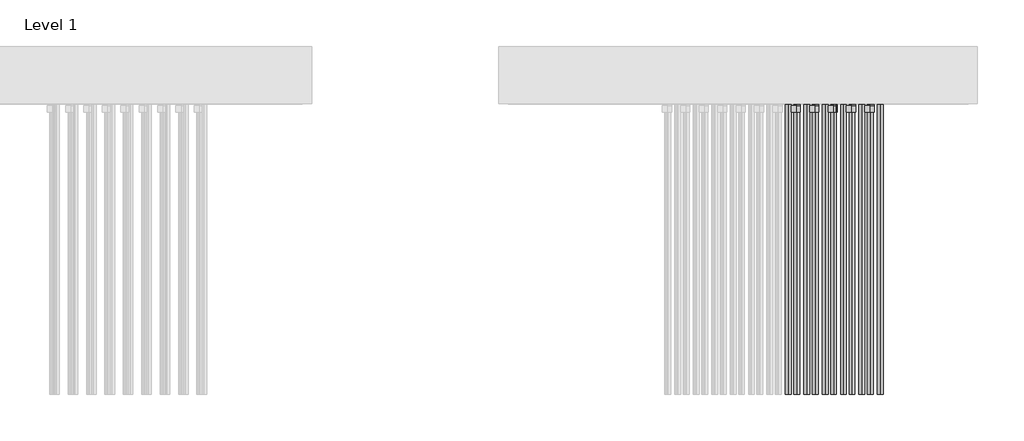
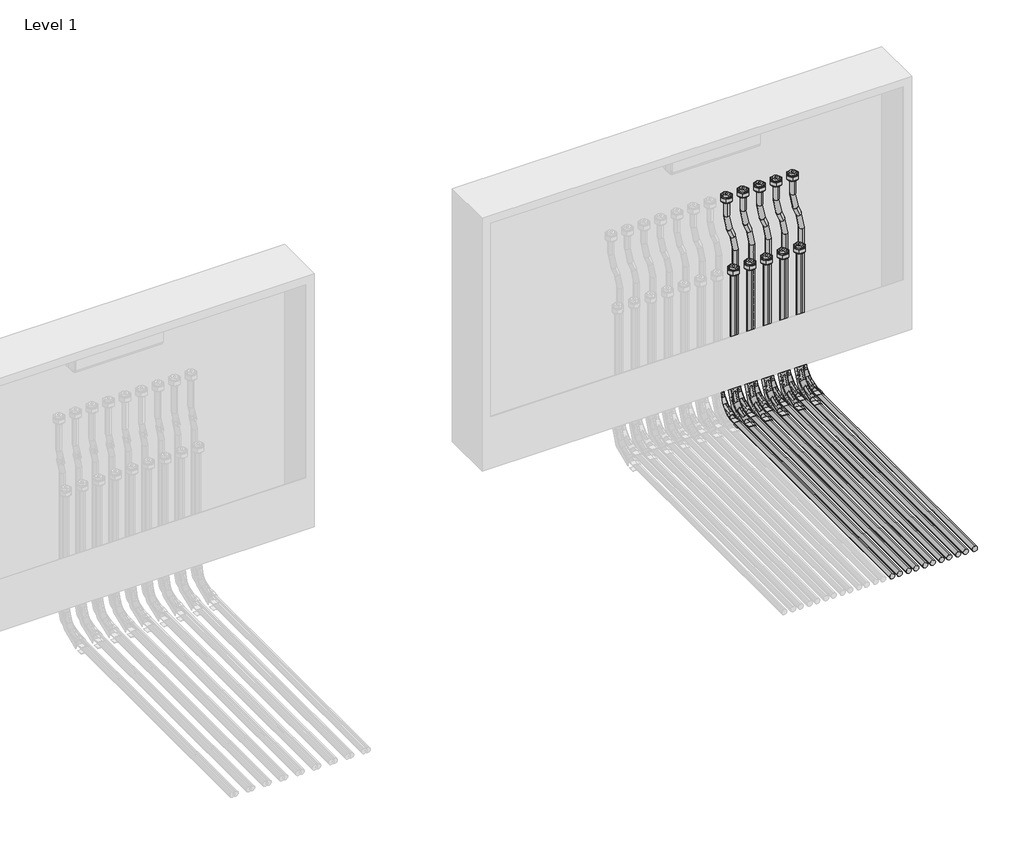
# One storey, part 15 of 15: 42 pipe fittings, 31 pipe segments.
"""IFC4 building model written with IfcOpenShell, lengths in millimetres."""

from ifc_helpers import new_model, si_unit, point, frame, frame_2d, origin, place, context, project, spatial, circle_curve, trimmed, segment, composite_curve, outline, extrude, transform, mapped, element, save
from components import pipe_fitting_b05a7e06, pipe_fitting_27357a6d, pipe_fitting_daada113, pipe_fitting_3e503640

model = new_model("IFC4")

# Units and contexts
model_context = context("Model", 3, world=origin())
ifc_project = project(units=[si_unit("LENGTHUNIT", "METRE", prefix="MILLI")], contexts=[model_context])

# Site, building, storey
site = spatial("IfcSite", under=ifc_project)
building = spatial("IfcBuilding", under=site)
storey = spatial("IfcBuildingStorey", under=building, Name="Level 1", Elevation=0.0)

# Pipe fittings
placement = place(None, origin())
pipe_fitting_shape = pipe_fitting_b05a7e06(model_context)
element("IfcPipeFitting", 1, ObjectType="USYSTEMS_УгловойФиксатор_Multi : Угловой фиксатор", at=placement, inside=storey, context=model_context, shape_type="MappedRepresentation", body=[
    mapped(pipe_fitting_shape, transform((17002.5432596, 3855.7846392, -114.3211479), x_axis=(0.0, 0.0, -1.0), y_axis=(0.0, -1.0, 0.0), z_axis=(-1.0, 0.0, 0.0))),
])
element("IfcPipeFitting", 2, ObjectType="USYSTEMS_УгловойФиксатор_Multi : Угловой фиксатор", at=placement, inside=storey, context=model_context, shape_type="MappedRepresentation", body=[
    mapped(pipe_fitting_shape, transform((17025.5332377, 3819.7850993, -114.3211479), x_axis=(0.0, 0.0, -1.0), y_axis=(0.0, -1.0, 0.0), z_axis=(-1.0, 0.0, 0.0))),
])
element("IfcPipeFitting", 3, ObjectType="USYSTEMS_УгловойФиксатор_Multi : Угловой фиксатор", at=placement, inside=storey, context=model_context, shape_type="MappedRepresentation", body=[
    mapped(pipe_fitting_shape, transform((17052.5432596, 3855.7846392, -114.3211479), x_axis=(0.0, 0.0, -1.0), y_axis=(0.0, -1.0, 0.0), z_axis=(-1.0, 0.0, 0.0))),
])
element("IfcPipeFitting", 4, ObjectType="USYSTEMS_УгловойФиксатор_Multi : Угловой фиксатор", at=placement, inside=storey, context=model_context, shape_type="MappedRepresentation", body=[
    mapped(pipe_fitting_shape, transform((17075.5332377, 3819.7850993, -114.3211479), x_axis=(0.0, 0.0, -1.0), y_axis=(0.0, -1.0, 0.0), z_axis=(-1.0, 0.0, 0.0))),
])
element("IfcPipeFitting", 5, ObjectType="USYSTEMS_УгловойФиксатор_Multi : Угловой фиксатор", at=placement, inside=storey, context=model_context, shape_type="MappedRepresentation", body=[
    mapped(pipe_fitting_shape, transform((17102.5432596, 3855.7846392, -114.3211479), x_axis=(0.0, 0.0, -1.0), y_axis=(0.0, -1.0, 0.0), z_axis=(-1.0, 0.0, 0.0))),
])
element("IfcPipeFitting", 6, ObjectType="USYSTEMS_УгловойФиксатор_Multi : Угловой фиксатор", at=placement, inside=storey, context=model_context, shape_type="MappedRepresentation", body=[
    mapped(pipe_fitting_shape, transform((17125.5332377, 3819.7850993, -114.3211479), x_axis=(0.0, 0.0, -1.0), y_axis=(0.0, -1.0, 0.0), z_axis=(-1.0, 0.0, 0.0))),
])
element("IfcPipeFitting", 7, ObjectType="USYSTEMS_УгловойФиксатор_Multi : Угловой фиксатор", at=placement, inside=storey, context=model_context, shape_type="MappedRepresentation", body=[
    mapped(pipe_fitting_shape, transform((17152.5432596, 3855.7849613, -114.3211479), x_axis=(0.0, 0.0, -1.0), y_axis=(0.0, -1.0, 0.0), z_axis=(-1.0, 0.0, 0.0))),
])
element("IfcPipeFitting", 8, ObjectType="USYSTEMS_УгловойФиксатор_Multi : Угловой фиксатор", at=placement, inside=storey, context=model_context, shape_type="MappedRepresentation", body=[
    mapped(pipe_fitting_shape, transform((17175.5332377, 3819.7850993, -114.3211479), x_axis=(0.0, 0.0, -1.0), y_axis=(0.0, -1.0, 0.0), z_axis=(-1.0, 0.0, 0.0))),
])
element("IfcPipeFitting", 9, ObjectType="USYSTEMS_УгловойФиксатор_Multi : Угловой фиксатор", at=placement, inside=storey, context=model_context, shape_type="MappedRepresentation", body=[
    mapped(pipe_fitting_shape, transform((17202.5432596, 3855.7849613, -114.3211479), x_axis=(0.0, 0.0, -1.0), y_axis=(0.0, -1.0, 0.0), z_axis=(-1.0, 0.0, 0.0))),
])
element("IfcPipeFitting", 10, ObjectType="USYSTEMS_УгловойФиксатор_Multi : Угловой фиксатор", at=placement, inside=storey, context=model_context, shape_type="MappedRepresentation", body=[
    mapped(pipe_fitting_shape, transform((17225.5332377, 3819.7850993, -114.3211479), x_axis=(0.0, 0.0, -1.0), y_axis=(0.0, -1.0, 0.0), z_axis=(-1.0, 0.0, 0.0))),
])
element("IfcPipeFitting", 11, ObjectType="USYSTEMS_УгловойФиксатор_Multi : Угловой фиксатор", at=placement, inside=storey, context=model_context, shape_type="MappedRepresentation", body=[
    mapped(pipe_fitting_shape, transform((17252.5432596, 3855.7849613, -114.3211479), x_axis=(0.0, 0.0, -1.0), y_axis=(0.0, -1.0, 0.0), z_axis=(-1.0, 0.0, 0.0))),
])
pipe_fitting_2_shape = pipe_fitting_27357a6d(model_context)
element("IfcPipeFitting", 12, ObjectType="USYSTEMS_Штуцер с внутренней резьбой_FlexX_PEX : 16x2,0 x 3/4\" ВР Евроконус", at=placement, inside=storey, context=model_context, shape_type="MappedRepresentation", body=[
    mapped(pipe_fitting_2_shape, transform((17025.5332377, 3819.7850993, 328.3084133), x_axis=(0.0, 0.0, 1.0), y_axis=(0.0, 1.0, 0.0), z_axis=(-1.0, 0.0, 0.0))),
])
element("IfcPipeFitting", 13, ObjectType="USYSTEMS_Штуцер с внутренней резьбой_FlexX_PEX : 16x2,0 x 3/4\" ВР Евроконус", at=placement, inside=storey, context=model_context, shape_type="MappedRepresentation", body=[
    mapped(pipe_fitting_2_shape, transform((17025.5332377, 3855.7850993, 538.3084133), x_axis=(0.0, 0.0, 1.0), y_axis=(0.0, 1.0, 0.0), z_axis=(-1.0, 0.0, 0.0))),
])
element("IfcPipeFitting", 14, ObjectType="USYSTEMS_Штуцер с внутренней резьбой_FlexX_PEX : 16x2,0 x 3/4\" ВР Евроконус", at=placement, inside=storey, context=model_context, shape_type="MappedRepresentation", body=[
    mapped(pipe_fitting_2_shape, transform((17075.5332377, 3819.7850993, 328.3084133), x_axis=(0.0, 0.0, 1.0), y_axis=(0.0, 1.0, 0.0), z_axis=(-1.0, 0.0, 0.0))),
])
element("IfcPipeFitting", 15, ObjectType="USYSTEMS_Штуцер с внутренней резьбой_FlexX_PEX : 16x2,0 x 3/4\" ВР Евроконус", at=placement, inside=storey, context=model_context, shape_type="MappedRepresentation", body=[
    mapped(pipe_fitting_2_shape, transform((17075.5332377, 3855.7850993, 538.3084133), x_axis=(0.0, 0.0, 1.0), y_axis=(0.0, 1.0, 0.0), z_axis=(-1.0, 0.0, 0.0))),
])
element("IfcPipeFitting", 16, ObjectType="USYSTEMS_Штуцер с внутренней резьбой_FlexX_PEX : 16x2,0 x 3/4\" ВР Евроконус", at=placement, inside=storey, context=model_context, shape_type="MappedRepresentation", body=[
    mapped(pipe_fitting_2_shape, transform((17125.5332377, 3819.7850993, 328.3084133), x_axis=(0.0, 0.0, 1.0), y_axis=(0.0, 1.0, 0.0), z_axis=(-1.0, 0.0, 0.0))),
])
element("IfcPipeFitting", 17, ObjectType="USYSTEMS_Штуцер с внутренней резьбой_FlexX_PEX : 16x2,0 x 3/4\" ВР Евроконус", at=placement, inside=storey, context=model_context, shape_type="MappedRepresentation", body=[
    mapped(pipe_fitting_2_shape, transform((17125.5332377, 3855.7850993, 538.3084133), x_axis=(0.0, 0.0, 1.0), y_axis=(0.0, 1.0, 0.0), z_axis=(-1.0, 0.0, 0.0))),
])
element("IfcPipeFitting", 18, ObjectType="USYSTEMS_Штуцер с внутренней резьбой_FlexX_PEX : 16x2,0 x 3/4\" ВР Евроконус", at=placement, inside=storey, context=model_context, shape_type="MappedRepresentation", body=[
    mapped(pipe_fitting_2_shape, transform((17175.5332377, 3819.7850993, 328.3084133), x_axis=(0.0, 0.0, 1.0), y_axis=(0.0, 1.0, 0.0), z_axis=(-1.0, 0.0, 0.0))),
])
element("IfcPipeFitting", 19, ObjectType="USYSTEMS_Штуцер с внутренней резьбой_FlexX_PEX : 16x2,0 x 3/4\" ВР Евроконус", at=placement, inside=storey, context=model_context, shape_type="MappedRepresentation", body=[
    mapped(pipe_fitting_2_shape, transform((17175.5332377, 3855.7850993, 538.3084133), x_axis=(0.0, 0.0, 1.0), y_axis=(0.0, 1.0, 0.0), z_axis=(-1.0, 0.0, 0.0))),
])
element("IfcPipeFitting", 20, ObjectType="USYSTEMS_Штуцер с внутренней резьбой_FlexX_PEX : 16x2,0 x 3/4\" ВР Евроконус", at=placement, inside=storey, context=model_context, shape_type="MappedRepresentation", body=[
    mapped(pipe_fitting_2_shape, transform((17225.5332377, 3819.7850993, 328.3084133), x_axis=(0.0, 0.0, 1.0), y_axis=(0.0, 1.0, 0.0), z_axis=(-1.0, 0.0, 0.0))),
])
element("IfcPipeFitting", 21, ObjectType="USYSTEMS_Штуцер с внутренней резьбой_FlexX_PEX : 16x2,0 x 3/4\" ВР Евроконус", at=placement, inside=storey, context=model_context, shape_type="MappedRepresentation", body=[
    mapped(pipe_fitting_2_shape, transform((17225.5332377, 3855.7850993, 538.3084133), x_axis=(0.0, 0.0, 1.0), y_axis=(0.0, 1.0, 0.0), z_axis=(-1.0, 0.0, 0.0))),
])
pipe_fitting_3_shape = pipe_fitting_daada113(model_context)
element("IfcPipeFitting", 22, ObjectType="USYSTEMS_Гнутая труба_Radi Pipe : PN 6 в бухтах", at=placement, inside=storey, context=model_context, shape_type="MappedRepresentation", body=[
    mapped(pipe_fitting_3_shape, transform((17025.5332377, 3855.7850993, 458.6280399), x_axis=(0.0, 0.0, -1.0), y_axis=(1.0, 0.0, 0.0), z_axis=(0.0, -1.0, 0.0))),
])
element("IfcPipeFitting", 23, ObjectType="USYSTEMS_Гнутая труба_Radi Pipe : PN 6 в бухтах", at=placement, inside=storey, context=model_context, shape_type="MappedRepresentation", body=[
    mapped(pipe_fitting_3_shape, transform((17052.5432596, 3855.7846392, 388.2645272), x_axis=(0.3583679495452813, 0.0, -0.9335804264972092), y_axis=(-0.9335804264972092, 0.0, -0.3583679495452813), z_axis=(0.0, 1.0, 0.0))),
])
element("IfcPipeFitting", 24, ObjectType="USYSTEMS_Гнутая труба_Radi Pipe : PN 6 в бухтах", at=placement, inside=storey, context=model_context, shape_type="MappedRepresentation", body=[
    mapped(pipe_fitting_3_shape, transform((17075.5332377, 3855.7850993, 458.6280399), x_axis=(0.0, 0.0, -1.0), y_axis=(1.0, 0.0, 0.0), z_axis=(0.0, -1.0, 0.0))),
])
element("IfcPipeFitting", 25, ObjectType="USYSTEMS_Гнутая труба_Radi Pipe : PN 6 в бухтах", at=placement, inside=storey, context=model_context, shape_type="MappedRepresentation", body=[
    mapped(pipe_fitting_3_shape, transform((17102.5432596, 3855.7846392, 388.2645272), x_axis=(0.3583679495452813, 0.0, -0.9335804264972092), y_axis=(-0.9335804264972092, 0.0, -0.3583679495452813), z_axis=(0.0, 1.0, 0.0))),
])
element("IfcPipeFitting", 26, ObjectType="USYSTEMS_Гнутая труба_Radi Pipe : PN 6 в бухтах", at=placement, inside=storey, context=model_context, shape_type="MappedRepresentation", body=[
    mapped(pipe_fitting_3_shape, transform((17125.5332377, 3855.7850993, 458.6280399), x_axis=(0.0, 0.0, -1.0), y_axis=(1.0, 0.0, 0.0), z_axis=(0.0, -1.0, 0.0))),
])
element("IfcPipeFitting", 27, ObjectType="USYSTEMS_Гнутая труба_Radi Pipe : PN 6 в бухтах", at=placement, inside=storey, context=model_context, shape_type="MappedRepresentation", body=[
    mapped(pipe_fitting_3_shape, transform((17152.5432596, 3855.7849613, 388.2645272), x_axis=(0.3583679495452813, 0.0, -0.9335804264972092), y_axis=(-0.9335804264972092, 0.0, -0.3583679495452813), z_axis=(0.0, 1.0, 0.0))),
])
element("IfcPipeFitting", 28, ObjectType="USYSTEMS_Гнутая труба_Radi Pipe : PN 6 в бухтах", at=placement, inside=storey, context=model_context, shape_type="MappedRepresentation", body=[
    mapped(pipe_fitting_3_shape, transform((17175.5332377, 3855.7850993, 458.6280399), x_axis=(0.0, 0.0, -1.0), y_axis=(1.0, 0.0, 0.0), z_axis=(0.0, -1.0, 0.0))),
])
element("IfcPipeFitting", 29, ObjectType="USYSTEMS_Гнутая труба_Radi Pipe : PN 6 в бухтах", at=placement, inside=storey, context=model_context, shape_type="MappedRepresentation", body=[
    mapped(pipe_fitting_3_shape, transform((17202.5432596, 3855.7849613, 388.2645272), x_axis=(0.3583679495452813, 0.0, -0.9335804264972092), y_axis=(-0.9335804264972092, 0.0, -0.3583679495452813), z_axis=(0.0, 1.0, 0.0))),
])
element("IfcPipeFitting", 30, ObjectType="USYSTEMS_Гнутая труба_Radi Pipe : PN 6 в бухтах", at=placement, inside=storey, context=model_context, shape_type="MappedRepresentation", body=[
    mapped(pipe_fitting_3_shape, transform((17225.5332377, 3855.7850993, 458.6280399), x_axis=(0.0, 0.0, -1.0), y_axis=(1.0, 0.0, 0.0), z_axis=(0.0, -1.0, 0.0))),
])
element("IfcPipeFitting", 31, ObjectType="USYSTEMS_Гнутая труба_Radi Pipe : PN 6 в бухтах", at=placement, inside=storey, context=model_context, shape_type="MappedRepresentation", body=[
    mapped(pipe_fitting_3_shape, transform((17252.5432596, 3855.7849613, 388.2645272), x_axis=(0.3583679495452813, 0.0, -0.9335804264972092), y_axis=(-0.9335804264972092, 0.0, -0.3583679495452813), z_axis=(0.0, 1.0, 0.0))),
])
pipe_fitting_4_shape = pipe_fitting_3e503640(model_context)
element("IfcPipeFitting", 32, ObjectType="USYSTEMS_Гнутая труба_Radi Pipe : PN 6 в бухтах_С фиксатором", at=placement, inside=storey, context=model_context, shape_type="MappedRepresentation", body=[
    mapped(pipe_fitting_4_shape, transform((17002.5432596, 3855.7846392, -114.3211479), x_axis=(0.0, 0.0, -1.0), y_axis=(0.0, -1.0, 0.0), z_axis=(-1.0, 0.0, 0.0))),
])
element("IfcPipeFitting", 33, ObjectType="USYSTEMS_Гнутая труба_Radi Pipe : PN 6 в бухтах_С фиксатором", at=placement, inside=storey, context=model_context, shape_type="MappedRepresentation", body=[
    mapped(pipe_fitting_4_shape, transform((17025.5332377, 3819.7850993, -114.3211479), x_axis=(0.0, 0.0, -1.0), y_axis=(0.0, -1.0, 0.0), z_axis=(-1.0, 0.0, 0.0))),
])
element("IfcPipeFitting", 34, ObjectType="USYSTEMS_Гнутая труба_Radi Pipe : PN 6 в бухтах_С фиксатором", at=placement, inside=storey, context=model_context, shape_type="MappedRepresentation", body=[
    mapped(pipe_fitting_4_shape, transform((17052.5432596, 3855.7846392, -114.3211479), x_axis=(0.0, 0.0, -1.0), y_axis=(0.0, -1.0, 0.0), z_axis=(-1.0, 0.0, 0.0))),
])
element("IfcPipeFitting", 35, ObjectType="USYSTEMS_Гнутая труба_Radi Pipe : PN 6 в бухтах_С фиксатором", at=placement, inside=storey, context=model_context, shape_type="MappedRepresentation", body=[
    mapped(pipe_fitting_4_shape, transform((17075.5332377, 3819.7850993, -114.3211479), x_axis=(0.0, 0.0, -1.0), y_axis=(0.0, -1.0, 0.0), z_axis=(-1.0, 0.0, 0.0))),
])
element("IfcPipeFitting", 36, ObjectType="USYSTEMS_Гнутая труба_Radi Pipe : PN 6 в бухтах_С фиксатором", at=placement, inside=storey, context=model_context, shape_type="MappedRepresentation", body=[
    mapped(pipe_fitting_4_shape, transform((17102.5432596, 3855.7846392, -114.3211479), x_axis=(0.0, 0.0, -1.0), y_axis=(0.0, -1.0, 0.0), z_axis=(-1.0, 0.0, 0.0))),
])
element("IfcPipeFitting", 37, ObjectType="USYSTEMS_Гнутая труба_Radi Pipe : PN 6 в бухтах_С фиксатором", at=placement, inside=storey, context=model_context, shape_type="MappedRepresentation", body=[
    mapped(pipe_fitting_4_shape, transform((17125.5332377, 3819.7850993, -114.3211479), x_axis=(0.0, 0.0, -1.0), y_axis=(0.0, -1.0, 0.0), z_axis=(-1.0, 0.0, 0.0))),
])
element("IfcPipeFitting", 38, ObjectType="USYSTEMS_Гнутая труба_Radi Pipe : PN 6 в бухтах_С фиксатором", at=placement, inside=storey, context=model_context, shape_type="MappedRepresentation", body=[
    mapped(pipe_fitting_4_shape, transform((17152.5432596, 3855.7849613, -114.3211479), x_axis=(0.0, 0.0, -1.0), y_axis=(0.0, -1.0, 0.0), z_axis=(-1.0, 0.0, 0.0))),
])
element("IfcPipeFitting", 39, ObjectType="USYSTEMS_Гнутая труба_Radi Pipe : PN 6 в бухтах_С фиксатором", at=placement, inside=storey, context=model_context, shape_type="MappedRepresentation", body=[
    mapped(pipe_fitting_4_shape, transform((17175.5332377, 3819.7850993, -114.3211479), x_axis=(0.0, 0.0, -1.0), y_axis=(0.0, -1.0, 0.0), z_axis=(-1.0, 0.0, 0.0))),
])
element("IfcPipeFitting", 40, ObjectType="USYSTEMS_Гнутая труба_Radi Pipe : PN 6 в бухтах_С фиксатором", at=placement, inside=storey, context=model_context, shape_type="MappedRepresentation", body=[
    mapped(pipe_fitting_4_shape, transform((17202.5432596, 3855.7849613, -114.3211479), x_axis=(0.0, 0.0, -1.0), y_axis=(0.0, -1.0, 0.0), z_axis=(-1.0, 0.0, 0.0))),
])
element("IfcPipeFitting", 41, ObjectType="USYSTEMS_Гнутая труба_Radi Pipe : PN 6 в бухтах_С фиксатором", at=placement, inside=storey, context=model_context, shape_type="MappedRepresentation", body=[
    mapped(pipe_fitting_4_shape, transform((17225.5332377, 3819.7850993, -114.3211479), x_axis=(0.0, 0.0, -1.0), y_axis=(0.0, -1.0, 0.0), z_axis=(-1.0, 0.0, 0.0))),
])
element("IfcPipeFitting", 42, ObjectType="USYSTEMS_Гнутая труба_Radi Pipe : PN 6 в бухтах_С фиксатором", at=placement, inside=storey, context=model_context, shape_type="MappedRepresentation", body=[
    mapped(pipe_fitting_4_shape, transform((17252.5432596, 3855.7849613, -114.3211479), x_axis=(0.0, 0.0, -1.0), y_axis=(0.0, -1.0, 0.0), z_axis=(-1.0, 0.0, 0.0))),
])

# Pipe segments
element("IfcPipeSegment", 43, ObjectType="USYSTEMS труба Radi Pipe белая PN6", at=placement, inside=storey, context=model_context, shape_type="SweptSolid", body=[
    extrude(outline(composite_curve([segment(trimmed(circle_curve(frame_2d((-114.3211479, 17002.5432596)), 8.0), [point((-114.3211479, 16994.5432596))], [point((-122.3211479, 17002.5432596))], False, "CARTESIAN"), True, "CONTINUOUS"), segment(trimmed(circle_curve(frame_2d((-114.3211479, 17002.5432596)), 8.0), [point((-122.3211479, 17002.5432596))], [point((-114.3211479, 17010.5432596))], False, "CARTESIAN"), True, "CONTINUOUS"), segment(trimmed(circle_curve(frame_2d((-114.3211479, 17002.5432596)), 8.0), [point((-114.3211479, 17010.5432596))], [point((-106.3211479, 17002.5432596))], False, "CARTESIAN"), True, "CONTINUOUS"), segment(trimmed(circle_curve(frame_2d((-114.3211479, 17002.5432596)), 8.0), [point((-106.3211479, 17002.5432596))], [point((-114.3211479, 16994.5432596))], False, "CARTESIAN"), True, "CONTINUOUS")], self_intersect=False)), frame((0.0, 2946.5844543, 0.0), z_axis=(0.0, 1.0, 0.0), x_axis=(0.0, 0.0, 1.0)), (0.0, 0.0, 1.0), 838.2001849),
])
element("IfcPipeSegment", 44, ObjectType="USYSTEMS труба Radi Pipe белая PN6", at=placement, inside=storey, context=model_context, shape_type="SweptSolid", body=[
    extrude(outline(composite_curve([segment(trimmed(circle_curve(frame_2d((17025.5332377, 3819.7850993)), 8.0), [point((17033.5332377, 3819.7850993))], [point((17025.5332377, 3811.7850993))], False, "CARTESIAN"), True, "CONTINUOUS"), segment(trimmed(circle_curve(frame_2d((17025.5332377, 3819.7850993)), 8.0), [point((17025.5332377, 3811.7850993))], [point((17017.5332377, 3819.7850993))], False, "CARTESIAN"), True, "CONTINUOUS"), segment(trimmed(circle_curve(frame_2d((17025.5332377, 3819.7850993)), 8.0), [point((17017.5332377, 3819.7850993))], [point((17025.5332377, 3827.7850993))], False, "CARTESIAN"), True, "CONTINUOUS"), segment(trimmed(circle_curve(frame_2d((17025.5332377, 3819.7850993)), 8.0), [point((17025.5332377, 3827.7850993))], [point((17033.5332377, 3819.7850993))], False, "CARTESIAN"), True, "CONTINUOUS")], self_intersect=False)), frame((0.0, 0.0, -43.3211479), z_axis=(0.0, 0.0, 1.0), x_axis=(1.0, 0.0, 0.0)), (0.0, 0.0, 1.0), 370.6295612),
])
element("IfcPipeSegment", 45, ObjectType="USYSTEMS труба Radi Pipe белая PN6", at=placement, inside=storey, context=model_context, shape_type="SweptSolid", body=[
    extrude(outline(composite_curve([segment(trimmed(circle_curve(frame_2d((17025.5332377, 3855.7850993)), 8.0), [point((17033.5332377, 3855.7850993))], [point((17025.5332377, 3847.7850993))], False, "CARTESIAN"), True, "CONTINUOUS"), segment(trimmed(circle_curve(frame_2d((17025.5332377, 3855.7850993)), 8.0), [point((17025.5332377, 3847.7850993))], [point((17017.5332377, 3855.7850993))], False, "CARTESIAN"), True, "CONTINUOUS"), segment(trimmed(circle_curve(frame_2d((17025.5332377, 3855.7850993)), 8.0), [point((17017.5332377, 3855.7850993))], [point((17025.5332377, 3863.7850993))], False, "CARTESIAN"), True, "CONTINUOUS"), segment(trimmed(circle_curve(frame_2d((17025.5332377, 3855.7850993)), 8.0), [point((17025.5332377, 3863.7850993))], [point((17033.5332377, 3855.7850993))], False, "CARTESIAN"), True, "CONTINUOUS")], self_intersect=False)), frame((0.0, 0.0, 482.3514377), z_axis=(0.0, 0.0, 1.0), x_axis=(1.0, 0.0, 0.0)), (0.0, 0.0, 1.0), 54.9569756),
])
element("IfcPipeSegment", 46, ObjectType="USYSTEMS труба Radi Pipe белая PN6", at=placement, inside=storey, context=model_context, shape_type="SweptSolid", body=[
    extrude(outline(composite_curve([segment(trimmed(circle_curve(frame_2d((0.0, -8.0)), 8.0), [point((-0.0003941, -16.0))], [point((-8.0, -7.999606))], False, "CARTESIAN"), True, "CONTINUOUS"), segment(trimmed(circle_curve(frame_2d((0.0, -8.0)), 8.0), [point((-8.0, -7.999606))], [point((0.0003941, 0.0))], False, "CARTESIAN"), True, "CONTINUOUS"), segment(trimmed(circle_curve(frame_2d((0.0, -8.0)), 8.0), [point((0.0003941, 0.0))], [point((8.0, -8.0003941))], False, "CARTESIAN"), True, "CONTINUOUS"), segment(trimmed(circle_curve(frame_2d((0.0, -8.0)), 8.0), [point((8.0, -8.0003941))], [point((-0.0003941, -16.0))], False, "CARTESIAN"), True, "CONTINUOUS")], self_intersect=False)), frame((17044.0415542, 3863.7846392, 410.4120858), z_axis=(-0.35836794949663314, 1.6478935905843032e-05, 0.9335804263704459), x_axis=(0.9335804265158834, 6.325670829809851e-06, 0.35836794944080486)), (0.0, 0.0, 1.0), 27.9227289),
])
element("IfcPipeSegment", 47, ObjectType="USYSTEMS труба Radi Pipe белая PN6", at=placement, inside=storey, context=model_context, shape_type="SweptSolid", body=[
    extrude(outline(composite_curve([segment(trimmed(circle_curve(frame_2d((17052.5432596, 3855.7846392)), 8.0), [point((17060.5432596, 3855.7846392))], [point((17052.5432596, 3847.7846392))], False, "CARTESIAN"), True, "CONTINUOUS"), segment(trimmed(circle_curve(frame_2d((17052.5432596, 3855.7846392)), 8.0), [point((17052.5432596, 3847.7846392))], [point((17044.5432596, 3855.7846392))], False, "CARTESIAN"), True, "CONTINUOUS"), segment(trimmed(circle_curve(frame_2d((17052.5432596, 3855.7846392)), 8.0), [point((17044.5432596, 3855.7846392))], [point((17052.5432596, 3863.7846392))], False, "CARTESIAN"), True, "CONTINUOUS"), segment(trimmed(circle_curve(frame_2d((17052.5432596, 3855.7846392)), 8.0), [point((17052.5432596, 3863.7846392))], [point((17060.5432596, 3855.7846392))], False, "CARTESIAN"), True, "CONTINUOUS")], self_intersect=False)), frame((0.0, 0.0, -43.3211479), z_axis=(0.0, 0.0, 1.0), x_axis=(1.0, 0.0, 0.0)), (0.0, 0.0, 1.0), 407.8622774),
])
element("IfcPipeSegment", 48, ObjectType="USYSTEMS труба Radi Pipe белая PN6", at=placement, inside=storey, context=model_context, shape_type="SweptSolid", body=[
    extrude(outline(composite_curve([segment(trimmed(circle_curve(frame_2d((-114.3211479, 17025.5332377)), 8.0), [point((-114.3211479, 17017.5332377))], [point((-122.3211479, 17025.5332377))], False, "CARTESIAN"), True, "CONTINUOUS"), segment(trimmed(circle_curve(frame_2d((-114.3211479, 17025.5332377)), 8.0), [point((-122.3211479, 17025.5332377))], [point((-114.3211479, 17033.5332377))], False, "CARTESIAN"), True, "CONTINUOUS"), segment(trimmed(circle_curve(frame_2d((-114.3211479, 17025.5332377)), 8.0), [point((-114.3211479, 17033.5332377))], [point((-106.3211479, 17025.5332377))], False, "CARTESIAN"), True, "CONTINUOUS"), segment(trimmed(circle_curve(frame_2d((-114.3211479, 17025.5332377)), 8.0), [point((-106.3211479, 17025.5332377))], [point((-114.3211479, 17017.5332377))], False, "CARTESIAN"), True, "CONTINUOUS")], self_intersect=False)), frame((0.0, 2946.5844543, 0.0), z_axis=(0.0, 1.0, 0.0), x_axis=(0.0, 0.0, 1.0)), (0.0, 0.0, 1.0), 802.200645),
])
element("IfcPipeSegment", 49, ObjectType="USYSTEMS труба Radi Pipe белая PN6", at=placement, inside=storey, context=model_context, shape_type="SweptSolid", body=[
    extrude(outline(composite_curve([segment(trimmed(circle_curve(frame_2d((-114.3211479, 17052.5432596)), 8.0), [point((-114.3211479, 17044.5432596))], [point((-122.3211479, 17052.5432596))], False, "CARTESIAN"), True, "CONTINUOUS"), segment(trimmed(circle_curve(frame_2d((-114.3211479, 17052.5432596)), 8.0), [point((-122.3211479, 17052.5432596))], [point((-114.3211479, 17060.5432596))], False, "CARTESIAN"), True, "CONTINUOUS"), segment(trimmed(circle_curve(frame_2d((-114.3211479, 17052.5432596)), 8.0), [point((-114.3211479, 17060.5432596))], [point((-106.3211479, 17052.5432596))], False, "CARTESIAN"), True, "CONTINUOUS"), segment(trimmed(circle_curve(frame_2d((-114.3211479, 17052.5432596)), 8.0), [point((-106.3211479, 17052.5432596))], [point((-114.3211479, 17044.5432596))], False, "CARTESIAN"), True, "CONTINUOUS")], self_intersect=False)), frame((0.0, 2946.5844543, 0.0), z_axis=(0.0, 1.0, 0.0), x_axis=(0.0, 0.0, 1.0)), (0.0, 0.0, 1.0), 838.2001849),
])
element("IfcPipeSegment", 50, ObjectType="USYSTEMS труба Radi Pipe белая PN6", at=placement, inside=storey, context=model_context, shape_type="SweptSolid", body=[
    extrude(outline(composite_curve([segment(trimmed(circle_curve(frame_2d((17075.5332377, 3819.7850993)), 8.0), [point((17083.5332377, 3819.7850993))], [point((17075.5332377, 3811.7850993))], False, "CARTESIAN"), True, "CONTINUOUS"), segment(trimmed(circle_curve(frame_2d((17075.5332377, 3819.7850993)), 8.0), [point((17075.5332377, 3811.7850993))], [point((17067.5332377, 3819.7850993))], False, "CARTESIAN"), True, "CONTINUOUS"), segment(trimmed(circle_curve(frame_2d((17075.5332377, 3819.7850993)), 8.0), [point((17067.5332377, 3819.7850993))], [point((17075.5332377, 3827.7850993))], False, "CARTESIAN"), True, "CONTINUOUS"), segment(trimmed(circle_curve(frame_2d((17075.5332377, 3819.7850993)), 8.0), [point((17075.5332377, 3827.7850993))], [point((17083.5332377, 3819.7850993))], False, "CARTESIAN"), True, "CONTINUOUS")], self_intersect=False)), frame((0.0, 0.0, -43.3211479), z_axis=(0.0, 0.0, 1.0), x_axis=(1.0, 0.0, 0.0)), (0.0, 0.0, 1.0), 370.6295612),
])
element("IfcPipeSegment", 51, ObjectType="USYSTEMS труба Radi Pipe белая PN6", at=placement, inside=storey, context=model_context, shape_type="SweptSolid", body=[
    extrude(outline(composite_curve([segment(trimmed(circle_curve(frame_2d((17075.5332377, 3855.7850993)), 8.0), [point((17083.5332377, 3855.7850993))], [point((17075.5332377, 3847.7850993))], False, "CARTESIAN"), True, "CONTINUOUS"), segment(trimmed(circle_curve(frame_2d((17075.5332377, 3855.7850993)), 8.0), [point((17075.5332377, 3847.7850993))], [point((17067.5332377, 3855.7850993))], False, "CARTESIAN"), True, "CONTINUOUS"), segment(trimmed(circle_curve(frame_2d((17075.5332377, 3855.7850993)), 8.0), [point((17067.5332377, 3855.7850993))], [point((17075.5332377, 3863.7850993))], False, "CARTESIAN"), True, "CONTINUOUS"), segment(trimmed(circle_curve(frame_2d((17075.5332377, 3855.7850993)), 8.0), [point((17075.5332377, 3863.7850993))], [point((17083.5332377, 3855.7850993))], False, "CARTESIAN"), True, "CONTINUOUS")], self_intersect=False)), frame((0.0, 0.0, 482.3514377), z_axis=(0.0, 0.0, 1.0), x_axis=(1.0, 0.0, 0.0)), (0.0, 0.0, 1.0), 54.9569756),
])
element("IfcPipeSegment", 52, ObjectType="USYSTEMS труба Radi Pipe белая PN6", at=placement, inside=storey, context=model_context, shape_type="SweptSolid", body=[
    extrude(outline(composite_curve([segment(trimmed(circle_curve(frame_2d((0.0, -8.0)), 8.0), [point((-0.0003941, -16.0))], [point((-8.0, -7.999606))], False, "CARTESIAN"), True, "CONTINUOUS"), segment(trimmed(circle_curve(frame_2d((0.0, -8.0)), 8.0), [point((-8.0, -7.999606))], [point((0.0003941, 0.0))], False, "CARTESIAN"), True, "CONTINUOUS"), segment(trimmed(circle_curve(frame_2d((0.0, -8.0)), 8.0), [point((0.0003941, 0.0))], [point((8.0, -8.0003941))], False, "CARTESIAN"), True, "CONTINUOUS"), segment(trimmed(circle_curve(frame_2d((0.0, -8.0)), 8.0), [point((8.0, -8.0003941))], [point((-0.0003941, -16.0))], False, "CARTESIAN"), True, "CONTINUOUS")], self_intersect=False)), frame((17094.0415542, 3863.7846392, 410.4120858), z_axis=(-0.3583679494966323, 1.647893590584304e-05, 0.933580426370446), x_axis=(0.9335804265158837, 6.325670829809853e-06, 0.3583679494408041)), (0.0, 0.0, 1.0), 27.9227289),
])
element("IfcPipeSegment", 53, ObjectType="USYSTEMS труба Radi Pipe белая PN6", at=placement, inside=storey, context=model_context, shape_type="SweptSolid", body=[
    extrude(outline(composite_curve([segment(trimmed(circle_curve(frame_2d((17102.5432596, 3855.7846392)), 8.0), [point((17110.5432596, 3855.7846392))], [point((17102.5432596, 3847.7846392))], False, "CARTESIAN"), True, "CONTINUOUS"), segment(trimmed(circle_curve(frame_2d((17102.5432596, 3855.7846392)), 8.0), [point((17102.5432596, 3847.7846392))], [point((17094.5432596, 3855.7846392))], False, "CARTESIAN"), True, "CONTINUOUS"), segment(trimmed(circle_curve(frame_2d((17102.5432596, 3855.7846392)), 8.0), [point((17094.5432596, 3855.7846392))], [point((17102.5432596, 3863.7846392))], False, "CARTESIAN"), True, "CONTINUOUS"), segment(trimmed(circle_curve(frame_2d((17102.5432596, 3855.7846392)), 8.0), [point((17102.5432596, 3863.7846392))], [point((17110.5432596, 3855.7846392))], False, "CARTESIAN"), True, "CONTINUOUS")], self_intersect=False)), frame((0.0, 0.0, -43.3211479), z_axis=(0.0, 0.0, 1.0), x_axis=(1.0, 0.0, 0.0)), (0.0, 0.0, 1.0), 407.8622774),
])
element("IfcPipeSegment", 54, ObjectType="USYSTEMS труба Radi Pipe белая PN6", at=placement, inside=storey, context=model_context, shape_type="SweptSolid", body=[
    extrude(outline(composite_curve([segment(trimmed(circle_curve(frame_2d((-114.3211479, 17075.5332377)), 8.0), [point((-114.3211479, 17067.5332377))], [point((-122.3211479, 17075.5332377))], False, "CARTESIAN"), True, "CONTINUOUS"), segment(trimmed(circle_curve(frame_2d((-114.3211479, 17075.5332377)), 8.0), [point((-122.3211479, 17075.5332377))], [point((-114.3211479, 17083.5332377))], False, "CARTESIAN"), True, "CONTINUOUS"), segment(trimmed(circle_curve(frame_2d((-114.3211479, 17075.5332377)), 8.0), [point((-114.3211479, 17083.5332377))], [point((-106.3211479, 17075.5332377))], False, "CARTESIAN"), True, "CONTINUOUS"), segment(trimmed(circle_curve(frame_2d((-114.3211479, 17075.5332377)), 8.0), [point((-106.3211479, 17075.5332377))], [point((-114.3211479, 17067.5332377))], False, "CARTESIAN"), True, "CONTINUOUS")], self_intersect=False)), frame((0.0, 2946.5844543, 0.0), z_axis=(0.0, 1.0, 0.0), x_axis=(0.0, 0.0, 1.0)), (0.0, 0.0, 1.0), 802.200645),
])
element("IfcPipeSegment", 55, ObjectType="USYSTEMS труба Radi Pipe белая PN6", at=placement, inside=storey, context=model_context, shape_type="SweptSolid", body=[
    extrude(outline(composite_curve([segment(trimmed(circle_curve(frame_2d((-114.3211479, 17102.5432596)), 8.0), [point((-114.3211479, 17094.5432596))], [point((-122.3211479, 17102.5432596))], False, "CARTESIAN"), True, "CONTINUOUS"), segment(trimmed(circle_curve(frame_2d((-114.3211479, 17102.5432596)), 8.0), [point((-122.3211479, 17102.5432596))], [point((-114.3211479, 17110.5432596))], False, "CARTESIAN"), True, "CONTINUOUS"), segment(trimmed(circle_curve(frame_2d((-114.3211479, 17102.5432596)), 8.0), [point((-114.3211479, 17110.5432596))], [point((-106.3211479, 17102.5432596))], False, "CARTESIAN"), True, "CONTINUOUS"), segment(trimmed(circle_curve(frame_2d((-114.3211479, 17102.5432596)), 8.0), [point((-106.3211479, 17102.5432596))], [point((-114.3211479, 17094.5432596))], False, "CARTESIAN"), True, "CONTINUOUS")], self_intersect=False)), frame((0.0, 2946.5844543, 0.0), z_axis=(0.0, 1.0, 0.0), x_axis=(0.0, 0.0, 1.0)), (0.0, 0.0, 1.0), 838.2001849),
])
element("IfcPipeSegment", 56, ObjectType="USYSTEMS труба Radi Pipe белая PN6", at=placement, inside=storey, context=model_context, shape_type="SweptSolid", body=[
    extrude(outline(composite_curve([segment(trimmed(circle_curve(frame_2d((17125.5332377, 3819.7850993)), 8.0), [point((17133.5332377, 3819.7850993))], [point((17125.5332377, 3811.7850993))], False, "CARTESIAN"), True, "CONTINUOUS"), segment(trimmed(circle_curve(frame_2d((17125.5332377, 3819.7850993)), 8.0), [point((17125.5332377, 3811.7850993))], [point((17117.5332377, 3819.7850993))], False, "CARTESIAN"), True, "CONTINUOUS"), segment(trimmed(circle_curve(frame_2d((17125.5332377, 3819.7850993)), 8.0), [point((17117.5332377, 3819.7850993))], [point((17125.5332377, 3827.7850993))], False, "CARTESIAN"), True, "CONTINUOUS"), segment(trimmed(circle_curve(frame_2d((17125.5332377, 3819.7850993)), 8.0), [point((17125.5332377, 3827.7850993))], [point((17133.5332377, 3819.7850993))], False, "CARTESIAN"), True, "CONTINUOUS")], self_intersect=False)), frame((0.0, 0.0, -43.3211479), z_axis=(0.0, 0.0, 1.0), x_axis=(1.0, 0.0, 0.0)), (0.0, 0.0, 1.0), 370.6295612),
])
element("IfcPipeSegment", 57, ObjectType="USYSTEMS труба Radi Pipe белая PN6", at=placement, inside=storey, context=model_context, shape_type="SweptSolid", body=[
    extrude(outline(composite_curve([segment(trimmed(circle_curve(frame_2d((17125.5332377, 3855.7850993)), 8.0), [point((17133.5332377, 3855.7850993))], [point((17125.5332377, 3847.7850993))], False, "CARTESIAN"), True, "CONTINUOUS"), segment(trimmed(circle_curve(frame_2d((17125.5332377, 3855.7850993)), 8.0), [point((17125.5332377, 3847.7850993))], [point((17117.5332377, 3855.7850993))], False, "CARTESIAN"), True, "CONTINUOUS"), segment(trimmed(circle_curve(frame_2d((17125.5332377, 3855.7850993)), 8.0), [point((17117.5332377, 3855.7850993))], [point((17125.5332377, 3863.7850993))], False, "CARTESIAN"), True, "CONTINUOUS"), segment(trimmed(circle_curve(frame_2d((17125.5332377, 3855.7850993)), 8.0), [point((17125.5332377, 3863.7850993))], [point((17133.5332377, 3855.7850993))], False, "CARTESIAN"), True, "CONTINUOUS")], self_intersect=False)), frame((0.0, 0.0, 482.3514377), z_axis=(0.0, 0.0, 1.0), x_axis=(1.0, 0.0, 0.0)), (0.0, 0.0, 1.0), 54.9569756),
])
element("IfcPipeSegment", 58, ObjectType="USYSTEMS труба Radi Pipe белая PN6", at=placement, inside=storey, context=model_context, shape_type="SweptSolid", body=[
    extrude(outline(composite_curve([segment(trimmed(circle_curve(frame_2d((0.0, -8.0)), 8.0), [point((-0.0001182, -16.0))], [point((-8.0, -7.9998818))], False, "CARTESIAN"), True, "CONTINUOUS"), segment(trimmed(circle_curve(frame_2d((0.0, -8.0)), 8.0), [point((-8.0, -7.9998818))], [point((0.0001182, 0.0))], False, "CARTESIAN"), True, "CONTINUOUS"), segment(trimmed(circle_curve(frame_2d((0.0, -8.0)), 8.0), [point((0.0001182, 0.0))], [point((8.0, -8.0001183))], False, "CARTESIAN"), True, "CONTINUOUS"), segment(trimmed(circle_curve(frame_2d((0.0, -8.0)), 8.0), [point((8.0, -8.0001183))], [point((-0.0001182, -16.0))], False, "CARTESIAN"), True, "CONTINUOUS")], self_intersect=False)), frame((17144.0415542, 3863.7849613, 410.4121847), z_axis=(-0.35836794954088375, 4.943680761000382e-06, 0.9335804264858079), x_axis=(0.9335804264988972, 1.8977012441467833e-06, 0.3583679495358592)), (0.0, 0.0, 1.0), 27.9227289),
])
element("IfcPipeSegment", 59, ObjectType="USYSTEMS труба Radi Pipe белая PN6", at=placement, inside=storey, context=model_context, shape_type="SweptSolid", body=[
    extrude(outline(composite_curve([segment(trimmed(circle_curve(frame_2d((17152.5432596, 3855.7849613)), 8.0), [point((17160.5432596, 3855.7849613))], [point((17152.5432596, 3847.7849613))], False, "CARTESIAN"), True, "CONTINUOUS"), segment(trimmed(circle_curve(frame_2d((17152.5432596, 3855.7849613)), 8.0), [point((17152.5432596, 3847.7849613))], [point((17144.5432596, 3855.7849613))], False, "CARTESIAN"), True, "CONTINUOUS"), segment(trimmed(circle_curve(frame_2d((17152.5432596, 3855.7849613)), 8.0), [point((17144.5432596, 3855.7849613))], [point((17152.5432596, 3863.7849613))], False, "CARTESIAN"), True, "CONTINUOUS"), segment(trimmed(circle_curve(frame_2d((17152.5432596, 3855.7849613)), 8.0), [point((17152.5432596, 3863.7849613))], [point((17160.5432596, 3855.7849613))], False, "CARTESIAN"), True, "CONTINUOUS")], self_intersect=False)), frame((0.0, 0.0, -43.3211479), z_axis=(0.0, 0.0, 1.0), x_axis=(1.0, 0.0, 0.0)), (0.0, 0.0, 1.0), 407.8622774),
])
element("IfcPipeSegment", 60, ObjectType="USYSTEMS труба Radi Pipe белая PN6", at=placement, inside=storey, context=model_context, shape_type="SweptSolid", body=[
    extrude(outline(composite_curve([segment(trimmed(circle_curve(frame_2d((-114.3211479, 17125.5332377)), 8.0), [point((-114.3211479, 17117.5332377))], [point((-122.3211479, 17125.5332377))], False, "CARTESIAN"), True, "CONTINUOUS"), segment(trimmed(circle_curve(frame_2d((-114.3211479, 17125.5332377)), 8.0), [point((-122.3211479, 17125.5332377))], [point((-114.3211479, 17133.5332377))], False, "CARTESIAN"), True, "CONTINUOUS"), segment(trimmed(circle_curve(frame_2d((-114.3211479, 17125.5332377)), 8.0), [point((-114.3211479, 17133.5332377))], [point((-106.3211479, 17125.5332377))], False, "CARTESIAN"), True, "CONTINUOUS"), segment(trimmed(circle_curve(frame_2d((-114.3211479, 17125.5332377)), 8.0), [point((-106.3211479, 17125.5332377))], [point((-114.3211479, 17117.5332377))], False, "CARTESIAN"), True, "CONTINUOUS")], self_intersect=False)), frame((0.0, 2946.5844543, 0.0), z_axis=(0.0, 1.0, 0.0), x_axis=(0.0, 0.0, 1.0)), (0.0, 0.0, 1.0), 802.200645),
])
element("IfcPipeSegment", 61, ObjectType="USYSTEMS труба Radi Pipe белая PN6", at=placement, inside=storey, context=model_context, shape_type="SweptSolid", body=[
    extrude(outline(composite_curve([segment(trimmed(circle_curve(frame_2d((-114.3211479, 17152.5432596)), 8.0), [point((-114.3211479, 17144.5432596))], [point((-122.3211479, 17152.5432596))], False, "CARTESIAN"), True, "CONTINUOUS"), segment(trimmed(circle_curve(frame_2d((-114.3211479, 17152.5432596)), 8.0), [point((-122.3211479, 17152.5432596))], [point((-114.3211479, 17160.5432596))], False, "CARTESIAN"), True, "CONTINUOUS"), segment(trimmed(circle_curve(frame_2d((-114.3211479, 17152.5432596)), 8.0), [point((-114.3211479, 17160.5432596))], [point((-106.3211479, 17152.5432596))], False, "CARTESIAN"), True, "CONTINUOUS"), segment(trimmed(circle_curve(frame_2d((-114.3211479, 17152.5432596)), 8.0), [point((-106.3211479, 17152.5432596))], [point((-114.3211479, 17144.5432596))], False, "CARTESIAN"), True, "CONTINUOUS")], self_intersect=False)), frame((0.0, 2946.5844543, 0.0), z_axis=(0.0, 1.0, 0.0), x_axis=(0.0, 0.0, 1.0)), (0.0, 0.0, 1.0), 838.200507),
])
element("IfcPipeSegment", 62, ObjectType="USYSTEMS труба Radi Pipe белая PN6", at=placement, inside=storey, context=model_context, shape_type="SweptSolid", body=[
    extrude(outline(composite_curve([segment(trimmed(circle_curve(frame_2d((17175.5332377, 3819.7850993)), 8.0), [point((17183.5332377, 3819.7850993))], [point((17175.5332377, 3811.7850993))], False, "CARTESIAN"), True, "CONTINUOUS"), segment(trimmed(circle_curve(frame_2d((17175.5332377, 3819.7850993)), 8.0), [point((17175.5332377, 3811.7850993))], [point((17167.5332377, 3819.7850993))], False, "CARTESIAN"), True, "CONTINUOUS"), segment(trimmed(circle_curve(frame_2d((17175.5332377, 3819.7850993)), 8.0), [point((17167.5332377, 3819.7850993))], [point((17175.5332377, 3827.7850993))], False, "CARTESIAN"), True, "CONTINUOUS"), segment(trimmed(circle_curve(frame_2d((17175.5332377, 3819.7850993)), 8.0), [point((17175.5332377, 3827.7850993))], [point((17183.5332377, 3819.7850993))], False, "CARTESIAN"), True, "CONTINUOUS")], self_intersect=False)), frame((0.0, 0.0, -43.3211479), z_axis=(0.0, 0.0, 1.0), x_axis=(1.0, 0.0, 0.0)), (0.0, 0.0, 1.0), 370.6295612),
])
element("IfcPipeSegment", 63, ObjectType="USYSTEMS труба Radi Pipe белая PN6", at=placement, inside=storey, context=model_context, shape_type="SweptSolid", body=[
    extrude(outline(composite_curve([segment(trimmed(circle_curve(frame_2d((17175.5332377, 3855.7850993)), 8.0), [point((17183.5332377, 3855.7850993))], [point((17175.5332377, 3847.7850993))], False, "CARTESIAN"), True, "CONTINUOUS"), segment(trimmed(circle_curve(frame_2d((17175.5332377, 3855.7850993)), 8.0), [point((17175.5332377, 3847.7850993))], [point((17167.5332377, 3855.7850993))], False, "CARTESIAN"), True, "CONTINUOUS"), segment(trimmed(circle_curve(frame_2d((17175.5332377, 3855.7850993)), 8.0), [point((17167.5332377, 3855.7850993))], [point((17175.5332377, 3863.7850993))], False, "CARTESIAN"), True, "CONTINUOUS"), segment(trimmed(circle_curve(frame_2d((17175.5332377, 3855.7850993)), 8.0), [point((17175.5332377, 3863.7850993))], [point((17183.5332377, 3855.7850993))], False, "CARTESIAN"), True, "CONTINUOUS")], self_intersect=False)), frame((0.0, 0.0, 482.3514377), z_axis=(0.0, 0.0, 1.0), x_axis=(1.0, 0.0, 0.0)), (0.0, 0.0, 1.0), 54.9569756),
])
element("IfcPipeSegment", 64, ObjectType="USYSTEMS труба Radi Pipe белая PN6", at=placement, inside=storey, context=model_context, shape_type="SweptSolid", body=[
    extrude(outline(composite_curve([segment(trimmed(circle_curve(frame_2d((0.0, -8.0)), 8.0), [point((-0.0001182, -16.0))], [point((-8.0, -7.9998818))], False, "CARTESIAN"), True, "CONTINUOUS"), segment(trimmed(circle_curve(frame_2d((0.0, -8.0)), 8.0), [point((-8.0, -7.9998818))], [point((0.0001182, 0.0))], False, "CARTESIAN"), True, "CONTINUOUS"), segment(trimmed(circle_curve(frame_2d((0.0, -8.0)), 8.0), [point((0.0001182, 0.0))], [point((8.0, -8.0001183))], False, "CARTESIAN"), True, "CONTINUOUS"), segment(trimmed(circle_curve(frame_2d((0.0, -8.0)), 8.0), [point((8.0, -8.0001183))], [point((-0.0001182, -16.0))], False, "CARTESIAN"), True, "CONTINUOUS")], self_intersect=False)), frame((17194.0415542, 3863.7849613, 410.4121847), z_axis=(-0.35836794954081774, 4.9436807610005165e-06, 0.9335804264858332), x_axis=(0.9335804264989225, 1.8977012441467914e-06, 0.3583679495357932)), (0.0, 0.0, 1.0), 27.9227289),
])
element("IfcPipeSegment", 65, ObjectType="USYSTEMS труба Radi Pipe белая PN6", at=placement, inside=storey, context=model_context, shape_type="SweptSolid", body=[
    extrude(outline(composite_curve([segment(trimmed(circle_curve(frame_2d((17202.5432596, 3855.7849613)), 8.0), [point((17210.5432596, 3855.7849613))], [point((17202.5432596, 3847.7849613))], False, "CARTESIAN"), True, "CONTINUOUS"), segment(trimmed(circle_curve(frame_2d((17202.5432596, 3855.7849613)), 8.0), [point((17202.5432596, 3847.7849613))], [point((17194.5432596, 3855.7849613))], False, "CARTESIAN"), True, "CONTINUOUS"), segment(trimmed(circle_curve(frame_2d((17202.5432596, 3855.7849613)), 8.0), [point((17194.5432596, 3855.7849613))], [point((17202.5432596, 3863.7849613))], False, "CARTESIAN"), True, "CONTINUOUS"), segment(trimmed(circle_curve(frame_2d((17202.5432596, 3855.7849613)), 8.0), [point((17202.5432596, 3863.7849613))], [point((17210.5432596, 3855.7849613))], False, "CARTESIAN"), True, "CONTINUOUS")], self_intersect=False)), frame((0.0, 0.0, -43.3211479), z_axis=(0.0, 0.0, 1.0), x_axis=(1.0, 0.0, 0.0)), (0.0, 0.0, 1.0), 407.8622774),
])
element("IfcPipeSegment", 66, ObjectType="USYSTEMS труба Radi Pipe белая PN6", at=placement, inside=storey, context=model_context, shape_type="SweptSolid", body=[
    extrude(outline(composite_curve([segment(trimmed(circle_curve(frame_2d((-114.3211479, 17175.5332377)), 8.0), [point((-114.3211479, 17167.5332377))], [point((-122.3211479, 17175.5332377))], False, "CARTESIAN"), True, "CONTINUOUS"), segment(trimmed(circle_curve(frame_2d((-114.3211479, 17175.5332377)), 8.0), [point((-122.3211479, 17175.5332377))], [point((-114.3211479, 17183.5332377))], False, "CARTESIAN"), True, "CONTINUOUS"), segment(trimmed(circle_curve(frame_2d((-114.3211479, 17175.5332377)), 8.0), [point((-114.3211479, 17183.5332377))], [point((-106.3211479, 17175.5332377))], False, "CARTESIAN"), True, "CONTINUOUS"), segment(trimmed(circle_curve(frame_2d((-114.3211479, 17175.5332377)), 8.0), [point((-106.3211479, 17175.5332377))], [point((-114.3211479, 17167.5332377))], False, "CARTESIAN"), True, "CONTINUOUS")], self_intersect=False)), frame((0.0, 2946.5844543, 0.0), z_axis=(0.0, 1.0, 0.0), x_axis=(0.0, 0.0, 1.0)), (0.0, 0.0, 1.0), 802.200645),
])
element("IfcPipeSegment", 67, ObjectType="USYSTEMS труба Radi Pipe белая PN6", at=placement, inside=storey, context=model_context, shape_type="SweptSolid", body=[
    extrude(outline(composite_curve([segment(trimmed(circle_curve(frame_2d((-114.3211479, 17202.5432596)), 8.0), [point((-114.3211479, 17194.5432596))], [point((-122.3211479, 17202.5432596))], False, "CARTESIAN"), True, "CONTINUOUS"), segment(trimmed(circle_curve(frame_2d((-114.3211479, 17202.5432596)), 8.0), [point((-122.3211479, 17202.5432596))], [point((-114.3211479, 17210.5432596))], False, "CARTESIAN"), True, "CONTINUOUS"), segment(trimmed(circle_curve(frame_2d((-114.3211479, 17202.5432596)), 8.0), [point((-114.3211479, 17210.5432596))], [point((-106.3211479, 17202.5432596))], False, "CARTESIAN"), True, "CONTINUOUS"), segment(trimmed(circle_curve(frame_2d((-114.3211479, 17202.5432596)), 8.0), [point((-106.3211479, 17202.5432596))], [point((-114.3211479, 17194.5432596))], False, "CARTESIAN"), True, "CONTINUOUS")], self_intersect=False)), frame((0.0, 2946.5844543, 0.0), z_axis=(0.0, 1.0, 0.0), x_axis=(0.0, 0.0, 1.0)), (0.0, 0.0, 1.0), 838.200507),
])
element("IfcPipeSegment", 68, ObjectType="USYSTEMS труба Radi Pipe белая PN6", at=placement, inside=storey, context=model_context, shape_type="SweptSolid", body=[
    extrude(outline(composite_curve([segment(trimmed(circle_curve(frame_2d((17225.5332377, 3819.7850993)), 8.0), [point((17233.5332377, 3819.7850993))], [point((17225.5332377, 3811.7850993))], False, "CARTESIAN"), True, "CONTINUOUS"), segment(trimmed(circle_curve(frame_2d((17225.5332377, 3819.7850993)), 8.0), [point((17225.5332377, 3811.7850993))], [point((17217.5332377, 3819.7850993))], False, "CARTESIAN"), True, "CONTINUOUS"), segment(trimmed(circle_curve(frame_2d((17225.5332377, 3819.7850993)), 8.0), [point((17217.5332377, 3819.7850993))], [point((17225.5332377, 3827.7850993))], False, "CARTESIAN"), True, "CONTINUOUS"), segment(trimmed(circle_curve(frame_2d((17225.5332377, 3819.7850993)), 8.0), [point((17225.5332377, 3827.7850993))], [point((17233.5332377, 3819.7850993))], False, "CARTESIAN"), True, "CONTINUOUS")], self_intersect=False)), frame((0.0, 0.0, -43.3211479), z_axis=(0.0, 0.0, 1.0), x_axis=(1.0, 0.0, 0.0)), (0.0, 0.0, 1.0), 370.6295612),
])
element("IfcPipeSegment", 69, ObjectType="USYSTEMS труба Radi Pipe белая PN6", at=placement, inside=storey, context=model_context, shape_type="SweptSolid", body=[
    extrude(outline(composite_curve([segment(trimmed(circle_curve(frame_2d((17225.5332377, 3855.7850993)), 8.0), [point((17233.5332377, 3855.7850993))], [point((17225.5332377, 3847.7850993))], False, "CARTESIAN"), True, "CONTINUOUS"), segment(trimmed(circle_curve(frame_2d((17225.5332377, 3855.7850993)), 8.0), [point((17225.5332377, 3847.7850993))], [point((17217.5332377, 3855.7850993))], False, "CARTESIAN"), True, "CONTINUOUS"), segment(trimmed(circle_curve(frame_2d((17225.5332377, 3855.7850993)), 8.0), [point((17217.5332377, 3855.7850993))], [point((17225.5332377, 3863.7850993))], False, "CARTESIAN"), True, "CONTINUOUS"), segment(trimmed(circle_curve(frame_2d((17225.5332377, 3855.7850993)), 8.0), [point((17225.5332377, 3863.7850993))], [point((17233.5332377, 3855.7850993))], False, "CARTESIAN"), True, "CONTINUOUS")], self_intersect=False)), frame((0.0, 0.0, 482.3514377), z_axis=(0.0, 0.0, 1.0), x_axis=(1.0, 0.0, 0.0)), (0.0, 0.0, 1.0), 54.9569756),
])
element("IfcPipeSegment", 70, ObjectType="USYSTEMS труба Radi Pipe белая PN6", at=placement, inside=storey, context=model_context, shape_type="SweptSolid", body=[
    extrude(outline(composite_curve([segment(trimmed(circle_curve(frame_2d((0.0, -8.0)), 8.0), [point((-0.0001182, -16.0))], [point((-8.0, -7.9998818))], False, "CARTESIAN"), True, "CONTINUOUS"), segment(trimmed(circle_curve(frame_2d((0.0, -8.0)), 8.0), [point((-8.0, -7.9998818))], [point((0.0001182, 0.0))], False, "CARTESIAN"), True, "CONTINUOUS"), segment(trimmed(circle_curve(frame_2d((0.0, -8.0)), 8.0), [point((0.0001182, 0.0))], [point((8.0, -8.0001183))], False, "CARTESIAN"), True, "CONTINUOUS"), segment(trimmed(circle_curve(frame_2d((0.0, -8.0)), 8.0), [point((8.0, -8.0001183))], [point((-0.0001182, -16.0))], False, "CARTESIAN"), True, "CONTINUOUS")], self_intersect=False)), frame((17244.0415542, 3863.7849613, 410.4121847), z_axis=(-0.35836794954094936, 4.943680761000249e-06, 0.9335804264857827), x_axis=(0.933580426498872, 1.8977012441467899e-06, 0.3583679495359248)), (0.0, 0.0, 1.0), 27.9227289),
])
element("IfcPipeSegment", 71, ObjectType="USYSTEMS труба Radi Pipe белая PN6", at=placement, inside=storey, context=model_context, shape_type="SweptSolid", body=[
    extrude(outline(composite_curve([segment(trimmed(circle_curve(frame_2d((17252.5432596, 3855.7849613)), 8.0), [point((17260.5432596, 3855.7849613))], [point((17252.5432596, 3847.7849613))], False, "CARTESIAN"), True, "CONTINUOUS"), segment(trimmed(circle_curve(frame_2d((17252.5432596, 3855.7849613)), 8.0), [point((17252.5432596, 3847.7849613))], [point((17244.5432596, 3855.7849613))], False, "CARTESIAN"), True, "CONTINUOUS"), segment(trimmed(circle_curve(frame_2d((17252.5432596, 3855.7849613)), 8.0), [point((17244.5432596, 3855.7849613))], [point((17252.5432596, 3863.7849613))], False, "CARTESIAN"), True, "CONTINUOUS"), segment(trimmed(circle_curve(frame_2d((17252.5432596, 3855.7849613)), 8.0), [point((17252.5432596, 3863.7849613))], [point((17260.5432596, 3855.7849613))], False, "CARTESIAN"), True, "CONTINUOUS")], self_intersect=False)), frame((0.0, 0.0, -43.3211479), z_axis=(0.0, 0.0, 1.0), x_axis=(1.0, 0.0, 0.0)), (0.0, 0.0, 1.0), 407.8622774),
])
element("IfcPipeSegment", 72, ObjectType="USYSTEMS труба Radi Pipe белая PN6", at=placement, inside=storey, context=model_context, shape_type="SweptSolid", body=[
    extrude(outline(composite_curve([segment(trimmed(circle_curve(frame_2d((-114.3211479, 17225.5332377)), 8.0), [point((-114.3211479, 17217.5332377))], [point((-122.3211479, 17225.5332377))], False, "CARTESIAN"), True, "CONTINUOUS"), segment(trimmed(circle_curve(frame_2d((-114.3211479, 17225.5332377)), 8.0), [point((-122.3211479, 17225.5332377))], [point((-114.3211479, 17233.5332377))], False, "CARTESIAN"), True, "CONTINUOUS"), segment(trimmed(circle_curve(frame_2d((-114.3211479, 17225.5332377)), 8.0), [point((-114.3211479, 17233.5332377))], [point((-106.3211479, 17225.5332377))], False, "CARTESIAN"), True, "CONTINUOUS"), segment(trimmed(circle_curve(frame_2d((-114.3211479, 17225.5332377)), 8.0), [point((-106.3211479, 17225.5332377))], [point((-114.3211479, 17217.5332377))], False, "CARTESIAN"), True, "CONTINUOUS")], self_intersect=False)), frame((0.0, 2946.5844543, 0.0), z_axis=(0.0, 1.0, 0.0), x_axis=(0.0, 0.0, 1.0)), (0.0, 0.0, 1.0), 802.200645),
])
element("IfcPipeSegment", 73, ObjectType="USYSTEMS труба Radi Pipe белая PN6", at=placement, inside=storey, context=model_context, shape_type="SweptSolid", body=[
    extrude(outline(composite_curve([segment(trimmed(circle_curve(frame_2d((-114.3211479, 17252.5432596)), 8.0), [point((-114.3211479, 17244.5432596))], [point((-122.3211479, 17252.5432596))], False, "CARTESIAN"), True, "CONTINUOUS"), segment(trimmed(circle_curve(frame_2d((-114.3211479, 17252.5432596)), 8.0), [point((-122.3211479, 17252.5432596))], [point((-114.3211479, 17260.5432596))], False, "CARTESIAN"), True, "CONTINUOUS"), segment(trimmed(circle_curve(frame_2d((-114.3211479, 17252.5432596)), 8.0), [point((-114.3211479, 17260.5432596))], [point((-106.3211479, 17252.5432596))], False, "CARTESIAN"), True, "CONTINUOUS"), segment(trimmed(circle_curve(frame_2d((-114.3211479, 17252.5432596)), 8.0), [point((-106.3211479, 17252.5432596))], [point((-114.3211479, 17244.5432596))], False, "CARTESIAN"), True, "CONTINUOUS")], self_intersect=False)), frame((0.0, 2946.5844543, 0.0), z_axis=(0.0, 1.0, 0.0), x_axis=(0.0, 0.0, 1.0)), (0.0, 0.0, 1.0), 838.200507),
])

save(model, "model.ifc")
